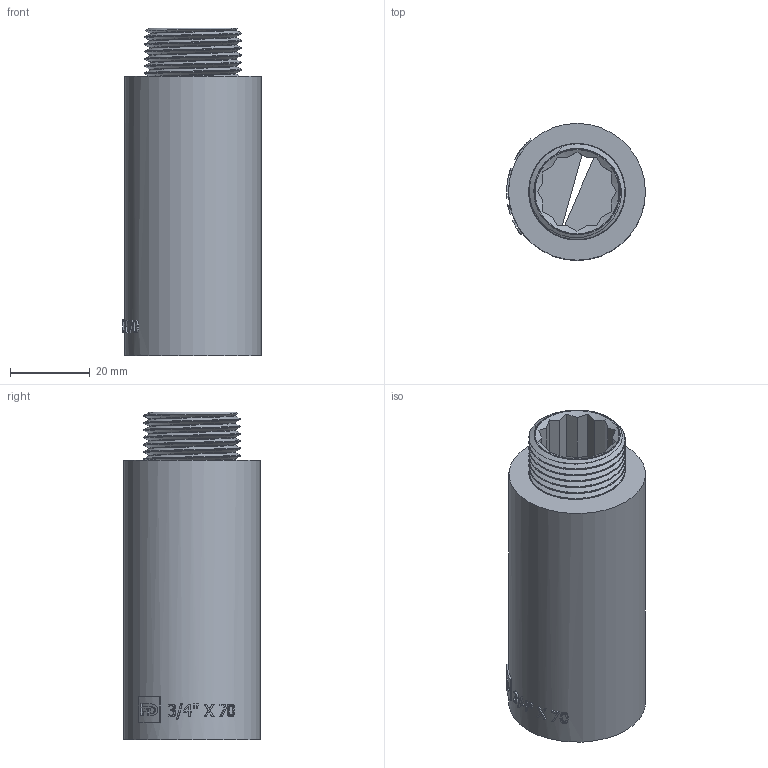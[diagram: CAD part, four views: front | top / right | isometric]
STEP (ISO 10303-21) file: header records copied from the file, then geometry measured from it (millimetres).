
FILE_DESCRIPTION(/* description */ (''),/* implementation_level */ '2;1');
FILE_NAME(/* name */ 'C:\Users\Doom\Desktop\Фадотех\Резьба\UN70 18.03.2020\UN70 18.03.2020.stp',/* time_stamp */ '2022-01-22T14:00:36+02:00',/* author */ ('Doom'),/* organization */ (''),/* preprocessor_version */ 'ST-DEVELOPER v18',/* originating_system */ 'Autodesk Inventor 2020',/* authorisation */ '');
FILE_SCHEMA (('AUTOMOTIVE_DESIGN { 1 0 10303 214 3 1 1 }'));
Length unit declared in the file: millimetre
Products named in the file (1): UD70 18.03.2020
Bounding box: 34.7 x 34.2 x 82 mm (x, y, z)
Volume: 34182.8 mm3; surface area: 25547.3 mm2
Topology: 3 solids, 3 shells, 199 faces, 544 edges, 364 vertices
Faces by surface type: plane 84, bspline 66, cylinder 45, cone 4
Full cylindrical faces by diameter (mm): 21.44 x2, 23.75 x17, 24.1 x1, 24.13 x5, 26.44 x2, 34.2 x1
Entity records: 19661 total; most frequent: CARTESIAN_POINT 15193, ORIENTED_EDGE 1080, DIRECTION 664, EDGE_CURVE 540, VERTEX_POINT 362, AXIS2_PLACEMENT_3D 232, EDGE_LOOP 220, LINE 200
